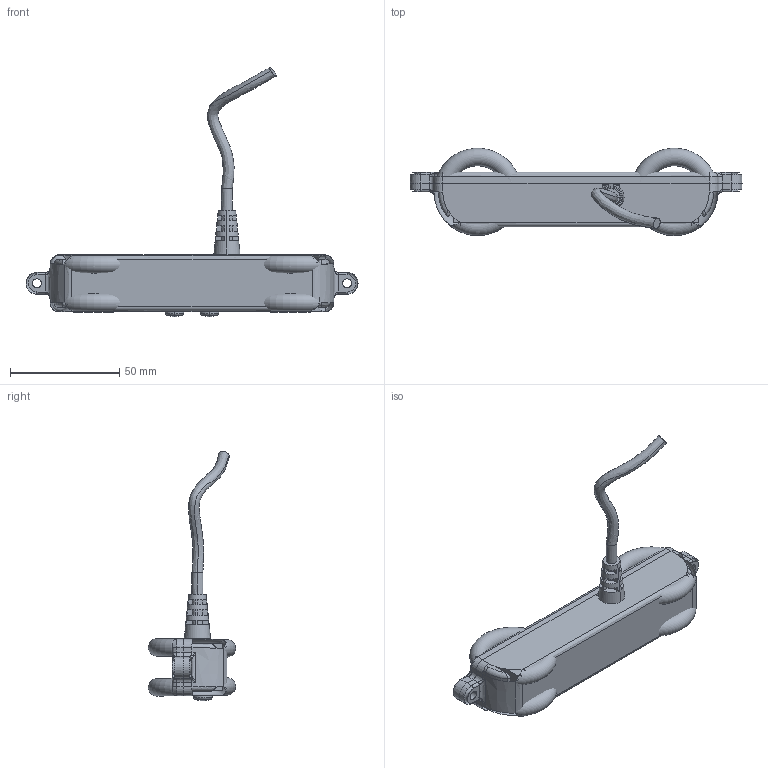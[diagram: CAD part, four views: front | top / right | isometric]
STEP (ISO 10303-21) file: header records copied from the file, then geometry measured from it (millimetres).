
FILE_DESCRIPTION((''),'2;1');
FILE_NAME('HDU2_ASM','2014-06-03T',('user'),(''),'PRO/ENGINEER BY PARAMETRIC TECHNOLOGY CORPORATION, 2008090','PRO/ENGINEER BY PARAMETRIC TECHNOLOGY CORPORATION, 2008090','');
FILE_SCHEMA(('CONFIG_CONTROL_DESIGN'));
Length unit declared in the file: inch
Products named in the file (1): HDU2_ASM
Bounding box: 152 x 39.94 x 114.25 mm (x, y, z)
Surface area: 42077.6 mm2 (no closed solid volume)
Topology: 0 solids, 0 shells, 491 faces, 2468 edges, 2438 vertices
Faces by surface type: bspline 444, torus 43, sphere 4
Entity records: 42515 total; most frequent: CARTESIAN_POINT 21843, DIRECTION 3076, TRIMMED_CURVE 2583, DEFINITIONAL_REPRESENTATION 2412, PCURVE 2412, COMPOSITE_CURVE_SEGMENT 2412, VECTOR 2184, LINE 2184
